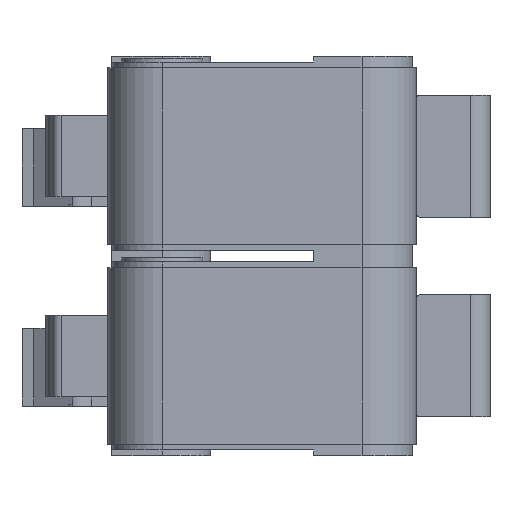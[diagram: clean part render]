
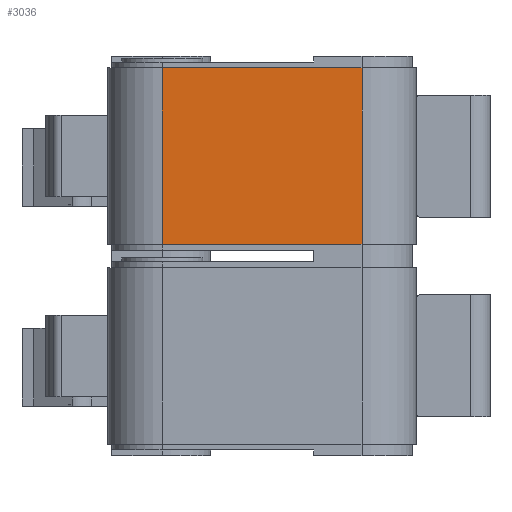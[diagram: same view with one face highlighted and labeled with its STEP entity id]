
A CAD part, left-side view. The second image highlights one B-rep face of the part: STEP entity #3036.
In plain terms, the highlighted planar face has unit normal (-1, 0, 0).
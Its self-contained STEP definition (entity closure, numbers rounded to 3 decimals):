
#1839=CARTESIAN_POINT('',(-13.9,5.15,14.85));
#1840=VERTEX_POINT('',#1839);
#1848=CARTESIAN_POINT('',(-13.9,-5.15,14.85));
#1849=VERTEX_POINT('',#1848);
#1850=CARTESIAN_POINT('',(-13.9,-5.15,14.85));
#1851=DIRECTION('',(0.0,1.0,0.0));
#1852=VECTOR('',#1851,10.3);
#1853=LINE('',#1850,#1852);
#1854=EDGE_CURVE('',#1849,#1840,#1853,.T.);
#2993=CARTESIAN_POINT('',(-13.9,5.15,5.75));
#2994=VERTEX_POINT('',#2993);
#2995=CARTESIAN_POINT('',(-13.9,5.15,5.75));
#2996=DIRECTION('',(0.0,0.0,1.0));
#2997=VECTOR('',#2996,9.1);
#2998=LINE('',#2995,#2997);
#2999=EDGE_CURVE('',#2994,#1840,#2998,.T.);
#3013=CARTESIAN_POINT('',(-13.9,-5.15,5.75));
#3014=DIRECTION('',(-1.0,0.0,0.0));
#3015=DIRECTION('',(0.0,0.0,1.0));
#3016=AXIS2_PLACEMENT_3D('',#3013,#3014,#3015);
#3017=PLANE('',#3016);
#3018=ORIENTED_EDGE('',*,*,#1854,.T.);
#3019=ORIENTED_EDGE('',*,*,#2999,.F.);
#3020=CARTESIAN_POINT('',(-13.9,-5.15,5.75));
#3021=VERTEX_POINT('',#3020);
#3022=CARTESIAN_POINT('',(-13.9,5.15,5.75));
#3023=DIRECTION('',(0.0,-1.0,0.0));
#3024=VECTOR('',#3023,10.3);
#3025=LINE('',#3022,#3024);
#3026=EDGE_CURVE('',#2994,#3021,#3025,.T.);
#3027=ORIENTED_EDGE('',*,*,#3026,.T.);
#3028=CARTESIAN_POINT('',(-13.9,-5.15,5.75));
#3029=DIRECTION('',(0.0,0.0,1.0));
#3030=VECTOR('',#3029,9.1);
#3031=LINE('',#3028,#3030);
#3032=EDGE_CURVE('',#3021,#1849,#3031,.T.);
#3033=ORIENTED_EDGE('',*,*,#3032,.T.);
#3034=EDGE_LOOP('',(#3018,#3019,#3027,#3033));
#3035=FACE_OUTER_BOUND('',#3034,.T.);
#3036=ADVANCED_FACE('',(#3035),#3017,.T.);
